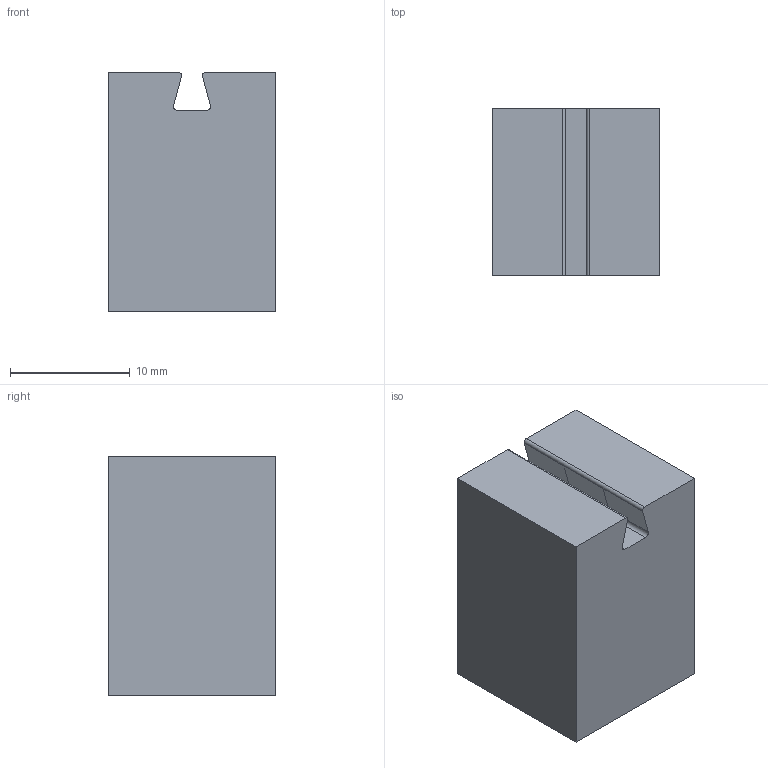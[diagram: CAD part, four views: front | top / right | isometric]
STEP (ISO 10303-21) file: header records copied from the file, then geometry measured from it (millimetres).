
FILE_DESCRIPTION (( 'STEP AP203' ), '1' );
FILE_NAME ('AL06 Male Dovetail Subtraction.STEP', '2021-01-13T20:01:36', ( '' ), ( '' ), 'SwSTEP 2.0', 'SolidWorks 2020', '' );
FILE_SCHEMA (( 'CONFIG_CONTROL_DESIGN' ));
Length unit declared in the file: inch
Products named in the file (1): AL06 Male Dovetail Subtraction
Bounding box: 14 x 14 x 20 mm (x, y, z)
Volume: 3811.8 mm3; surface area: 1601.2 mm2
Topology: 1 solids, 1 shells, 156 faces, 402 edges, 268 vertices
Faces by surface type: plane 119, bspline 33, cylinder 4
Entity records: 7005 total; most frequent: CARTESIAN_POINT 3342, ORIENTED_EDGE 804, DIRECTION 586, EDGE_CURVE 402, LINE 322, VECTOR 322, VERTEX_POINT 268, EDGE_LOOP 176
